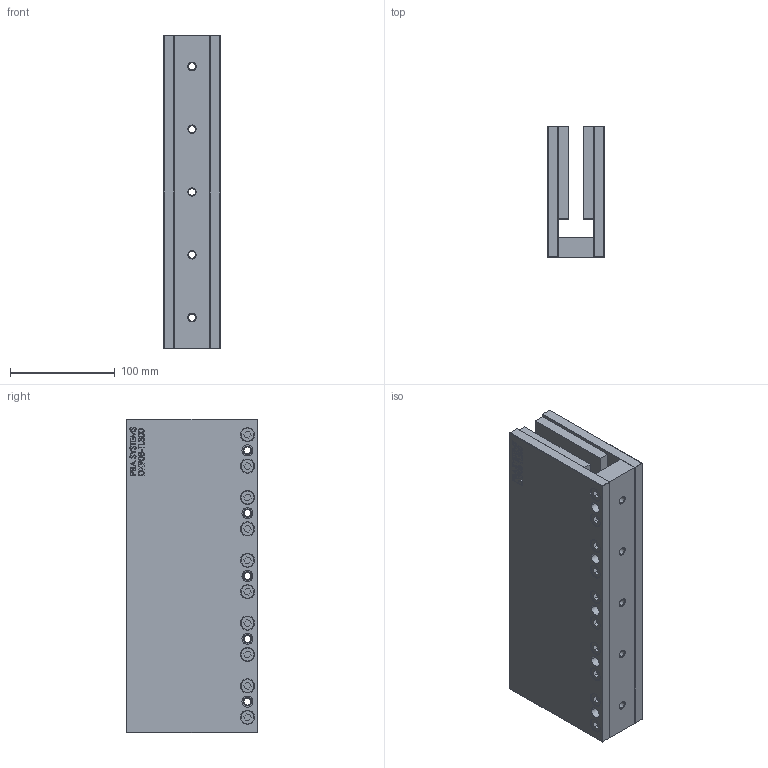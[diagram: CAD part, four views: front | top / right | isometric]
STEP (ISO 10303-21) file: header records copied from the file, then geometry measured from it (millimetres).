
FILE_DESCRIPTION (( 'STEP AP214' ), '1' );
FILE_NAME ('DX90B-TL300.STEP', '2016-05-12T01:08:33', ( '' ), ( '' ), 'SwSTEP 2.0', 'SolidWorks 2015', '' );
FILE_SCHEMA (( 'AUTOMOTIVE_DESIGN' ));
Length unit declared in the file: millimetre
Products named in the file (5): M8X16 DIN7984 STAINLESS STEEL; DX90B-0000-001_CUSTOMER_TL300; DX90B-TL300-002_TL300; DX90B-TL300-001_TL300; DX90B-TL300
Assembly tree (25 placements, depth 2):
  DX90B-TL300
    DX90B-TL300-001_TL300
    DX90B-TL300-002_TL300  x2
    DX90B-0000-001_CUSTOMER_TL300  x2
    M8X16 DIN7984 STAINLESS STEEL  x20
Bounding box: 54 x 125 x 299.5 mm (x, y, z)
Volume: 1432361 mm3; surface area: 352800.4 mm2
Topology: 25 solids, 25 shells, 1300 faces, 3110 edges, 1974 vertices
Faces by surface type: plane 608, bspline 252, cylinder 240, cone 120, torus 80
Entity records: 24071 total; most frequent: CARTESIAN_POINT 10678, ORIENTED_EDGE 2686, DIRECTION 2239, EDGE_CURVE 1343, VERTEX_POINT 842, LINE 793, VECTOR 793, AXIS2_PLACEMENT_3D 723
